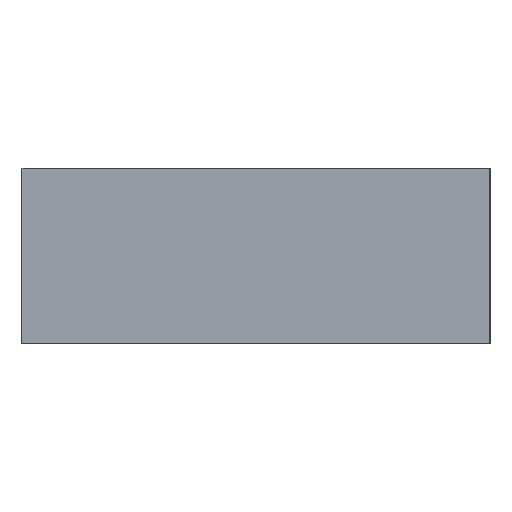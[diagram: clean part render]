
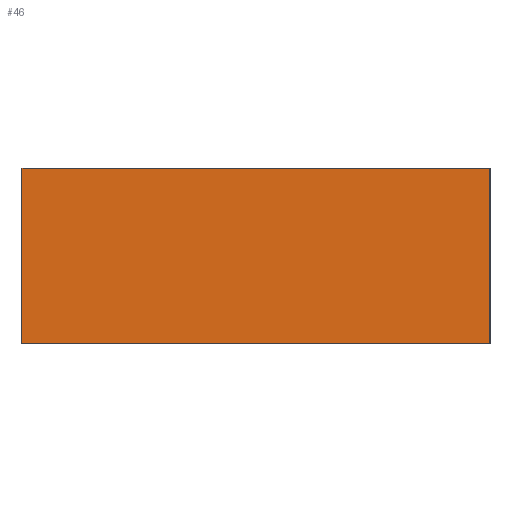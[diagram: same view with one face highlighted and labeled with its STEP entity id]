
A CAD part, left-side view. The second image highlights one B-rep face of the part: STEP entity #46.
In plain terms, the highlighted planar face has unit normal (-1, 0, 0).
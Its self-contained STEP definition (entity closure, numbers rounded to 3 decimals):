
#46 = ADVANCED_FACE( '', ( #96 ), #97, .F. );
#96 = FACE_OUTER_BOUND( '', #149, .T. );
#97 = PLANE( '', #150 );
#149 = EDGE_LOOP( '', ( #213, #214, #215, #216 ) );
#150 = AXIS2_PLACEMENT_3D( '', #217, #218, #219 );
#213 = ORIENTED_EDGE( '', *, *, #312, .T. );
#214 = ORIENTED_EDGE( '', *, *, #307, .F. );
#215 = ORIENTED_EDGE( '', *, *, #313, .F. );
#216 = ORIENTED_EDGE( '', *, *, #314, .T. );
#217 = CARTESIAN_POINT( '', ( -6., 0., 6. ) );
#218 = DIRECTION( '', ( 1., 0., 0. ) );
#219 = DIRECTION( '', ( 0., 0., -1. ) );
#307 = EDGE_CURVE( '', #357, #352, #359, .T. );
#312 = EDGE_CURVE( '', #366, #352, #367, .T. );
#313 = EDGE_CURVE( '', #368, #357, #369, .T. );
#314 = EDGE_CURVE( '', #368, #366, #370, .T. );
#352 = VERTEX_POINT( '', #421 );
#357 = VERTEX_POINT( '', #428 );
#359 = LINE( '', #431, #432 );
#366 = VERTEX_POINT( '', #439 );
#367 = LINE( '', #440, #441 );
#368 = VERTEX_POINT( '', #442 );
#369 = LINE( '', #443, #444 );
#370 = LINE( '', #445, #446 );
#421 = CARTESIAN_POINT( '', ( -6., -32., -6. ) );
#428 = CARTESIAN_POINT( '', ( -6., -32., 6. ) );
#431 = CARTESIAN_POINT( '', ( -6., -32., 6. ) );
#432 = VECTOR( '', #494, 1000. );
#439 = CARTESIAN_POINT( '', ( -6., 0., -6. ) );
#440 = CARTESIAN_POINT( '', ( -6., 0., -6. ) );
#441 = VECTOR( '', #501, 1000. );
#442 = CARTESIAN_POINT( '', ( -6., 0., 6. ) );
#443 = CARTESIAN_POINT( '', ( -6., 0., 6. ) );
#444 = VECTOR( '', #502, 1000. );
#445 = CARTESIAN_POINT( '', ( -6., 0., 6. ) );
#446 = VECTOR( '', #503, 1000. );
#494 = DIRECTION( '', ( 0., 0., -1. ) );
#501 = DIRECTION( '', ( 0., -1., 0. ) );
#502 = DIRECTION( '', ( 0., -1., 0. ) );
#503 = DIRECTION( '', ( 0., 0., -1. ) );
